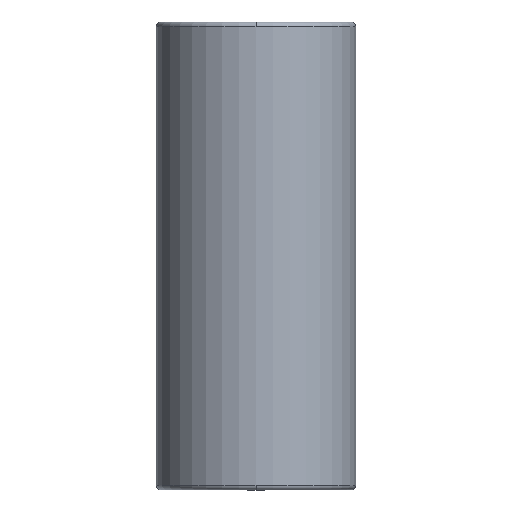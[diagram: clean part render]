
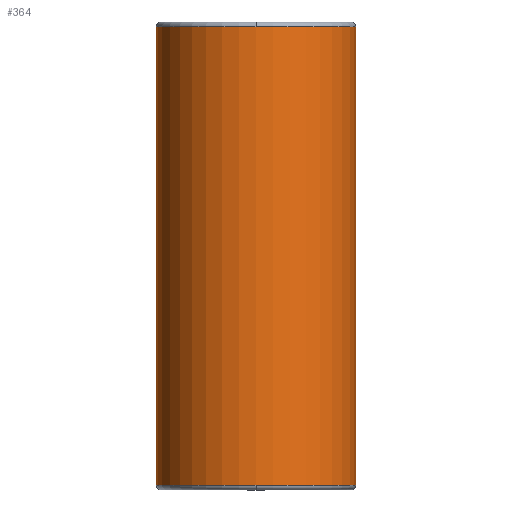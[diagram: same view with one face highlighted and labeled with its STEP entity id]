
A CAD part, front view. The second image highlights one B-rep face of the part: STEP entity #364.
In plain terms, the highlighted cylindrical face has radius 40.492 mm (diameter 80.984 mm), a partial arc.
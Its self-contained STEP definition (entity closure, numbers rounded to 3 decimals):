
#269=CARTESIAN_POINT('',(0.0,-40.492,188.));
#270=VERTEX_POINT('',#269);
#296=CARTESIAN_POINT('',(-40.492,0.,188.));
#297=VERTEX_POINT('',#296);
#305=CARTESIAN_POINT('',(0.0,0.,188.));
#306=DIRECTION('',(0.0,0.0,1.0));
#307=DIRECTION('',(1.0,0.0,0.0));
#308=AXIS2_PLACEMENT_3D('',#305,#306,#307);
#309=CIRCLE('',#308,40.492);
#310=EDGE_CURVE('',#297,#270,#309,.T.);
#315=CARTESIAN_POINT('',(0.0,0.,95.));
#316=DIRECTION('',(0.0,0.,1.0));
#317=DIRECTION('',(1.0,0.0,0.0));
#318=AXIS2_PLACEMENT_3D('',#315,#316,#317);
#319=CYLINDRICAL_SURFACE('',#318,40.492);
#320=CARTESIAN_POINT('',(40.492,0.,188.));
#321=VERTEX_POINT('',#320);
#322=CARTESIAN_POINT('',(40.492,0.,2.));
#323=VERTEX_POINT('',#322);
#324=CARTESIAN_POINT('',(40.492,0.,188.));
#325=DIRECTION('',(0.0,0.0,-1.0));
#326=VECTOR('',#325,186.);
#327=LINE('',#324,#326);
#328=EDGE_CURVE('',#321,#323,#327,.T.);
#329=ORIENTED_EDGE('',*,*,#328,.F.);
#330=CARTESIAN_POINT('',(0.0,0.,188.));
#331=DIRECTION('',(0.0,0.0,1.0));
#332=DIRECTION('',(1.0,0.0,0.0));
#333=AXIS2_PLACEMENT_3D('',#330,#331,#332);
#334=CIRCLE('',#333,40.492);
#335=EDGE_CURVE('',#270,#321,#334,.T.);
#336=ORIENTED_EDGE('',*,*,#335,.F.);
#337=ORIENTED_EDGE('',*,*,#310,.F.);
#338=CARTESIAN_POINT('',(-40.492,0.,2.0));
#339=VERTEX_POINT('',#338);
#340=CARTESIAN_POINT('',(-40.492,0.,188.));
#341=DIRECTION('',(0.0,0.0,-1.0));
#342=VECTOR('',#341,186.);
#343=LINE('',#340,#342);
#344=EDGE_CURVE('',#297,#339,#343,.T.);
#345=ORIENTED_EDGE('',*,*,#344,.T.);
#346=CARTESIAN_POINT('',(0.0,-40.492,2.));
#347=VERTEX_POINT('',#346);
#348=CARTESIAN_POINT('',(0.0,0.,2.0));
#349=DIRECTION('',(0.0,0.0,1.0));
#350=DIRECTION('',(1.0,0.0,0.0));
#351=AXIS2_PLACEMENT_3D('',#348,#349,#350);
#352=CIRCLE('',#351,40.492);
#353=EDGE_CURVE('',#339,#347,#352,.T.);
#354=ORIENTED_EDGE('',*,*,#353,.T.);
#355=CARTESIAN_POINT('',(0.0,0.,2.0));
#356=DIRECTION('',(0.0,0.0,1.0));
#357=DIRECTION('',(1.0,0.0,0.0));
#358=AXIS2_PLACEMENT_3D('',#355,#356,#357);
#359=CIRCLE('',#358,40.492);
#360=EDGE_CURVE('',#347,#323,#359,.T.);
#361=ORIENTED_EDGE('',*,*,#360,.T.);
#362=EDGE_LOOP('',(#329,#336,#337,#345,#354,#361));
#363=FACE_OUTER_BOUND('',#362,.T.);
#364=ADVANCED_FACE('',(#363),#319,.T.);
